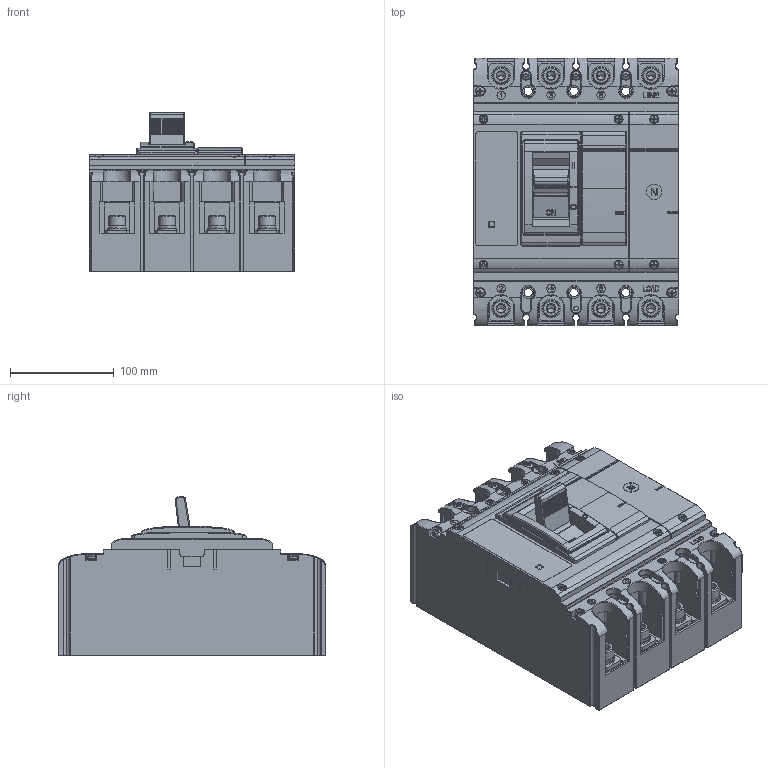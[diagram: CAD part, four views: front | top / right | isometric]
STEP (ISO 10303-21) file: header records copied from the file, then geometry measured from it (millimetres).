
FILE_DESCRIPTION (( 'STEP AP214' ), '1' );
FILE_NAME ('TGM1N-400_630-4P (1).STEP', '2025-12-19T06:44:03', ( '' ), ( '' ), 'SwSTEP 2.0', 'SolidWorks 2024', '' );
FILE_SCHEMA (( 'AUTOMOTIVE_DESIGN' ));
Products named in the file (3): TGM1N-400_630-4P (1).stp; TGM1N-400_630-4P (1); TENGEN_1N_TGM1N-630_4P_400-630A_1.stp
Assembly tree (2 placements, depth 3):
  TGM1N-400_630-4P (1)
    TGM1N-400_630-4P (1).stp
      TENGEN_1N_TGM1N-630_4P_400-630A_1.stp
Bounding box: 198 x 257 x 153.2 mm (x, y, z)
Volume: 4630322.3 mm3; surface area: 485139.3 mm2
Topology: 1 solids, 28 shells, 5160 faces, 13453 edges, 8439 vertices
Faces by surface type: plane 3113, cylinder 1321, sphere 252, bspline 217, cone 174, torus 83
Entity records: 176492 total; most frequent: CARTESIAN_POINT 52026, ORIENTED_EDGE 26648, DIRECTION 25028, EDGE_CURVE 13324, LINE 8804, VECTOR 8804, VERTEX_POINT 8384, AXIS2_PLACEMENT_3D 8112
